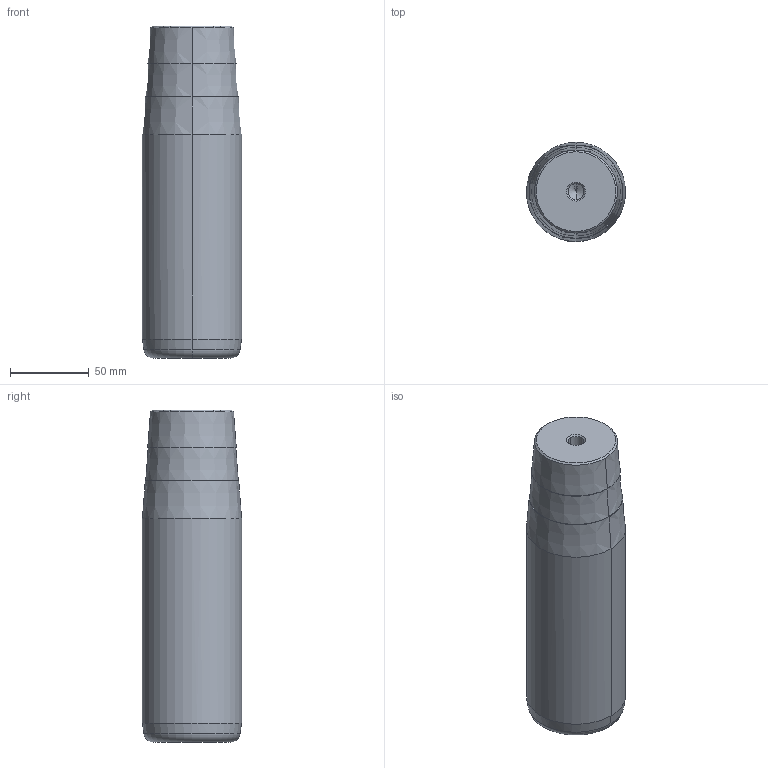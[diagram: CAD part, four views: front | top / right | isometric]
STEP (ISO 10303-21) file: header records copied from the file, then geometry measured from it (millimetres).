
FILE_DESCRIPTION(('CATIA V5 STEP Exchange'),'2;1');
FILE_NAME('C:\Users\Utente\Desktop\IO LAVORO\3D X SITO CF\X SITO\722\722-63x160x211.stp','2021-01-07T19:26:41+00:00',('none'),('none'),'CATIA Version 5 Release 20 GA (IN-10)','CATIA V5 STEP AP203','none');
FILE_SCHEMA(('CONFIG_CONTROL_DESIGN'));
Length unit declared in the file: millimetre
Products named in the file (1): 722-63x160x211
Bounding box: 63 x 63 x 211 mm (x, y, z)
Volume: 615949.7 mm3; surface area: 47009.6 mm2
Topology: 1 solids, 1 shells, 32 faces, 98 edges, 66 vertices
Faces by surface type: cone 22, cylinder 6, plane 2, torus 2
Entity records: 1172 total; most frequent: CARTESIAN_POINT 285, ORIENTED_EDGE 188, DIRECTION 148, EDGE_CURVE 94, AXIS2_PLACEMENT_3D 89, VERTEX_POINT 66, CIRCLE 56, EDGE_LOOP 34
